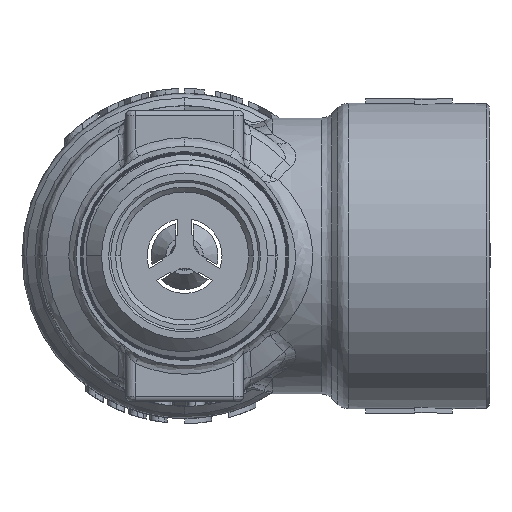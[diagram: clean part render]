
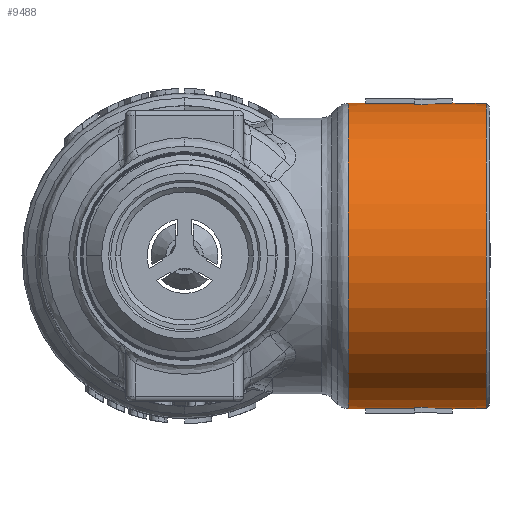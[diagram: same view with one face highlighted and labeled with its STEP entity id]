
A CAD part, front view. The second image highlights one B-rep face of the part: STEP entity #9488.
In plain terms, the highlighted cylindrical face has radius 15.5 mm (diameter 31 mm), a partial arc.
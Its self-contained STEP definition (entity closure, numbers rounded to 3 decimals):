
#667 = CARTESIAN_POINT ( 'NONE',  ( 0., 0., -15.5 ) ) ;
#1328 = ORIENTED_EDGE ( 'NONE', *, *, #25546, .T. ) ;
#1760 = LINE ( 'NONE', #14487, #35220 ) ;
#2380 = VERTEX_POINT ( 'NONE', #29763 ) ;
#2708 = CARTESIAN_POINT ( 'NONE',  ( 24.641, -1.471, -15.448 ) ) ;
#3813 = ORIENTED_EDGE ( 'NONE', *, *, #32991, .T. ) ;
#5413 = CARTESIAN_POINT ( 'NONE',  ( 23.378, 0., 0. ) ) ;
#6846 = CARTESIAN_POINT ( 'NONE',  ( 18.389, 0., -15.5 ) ) ;
#7269 = CARTESIAN_POINT ( 'NONE',  ( 27.189, 0., -15.5 ) ) ;
#7972 = AXIS2_PLACEMENT_3D ( 'NONE', #53839, #32667, #49633 ) ;
#9321 = ORIENTED_EDGE ( 'NONE', *, *, #40566, .F. ) ;
#9408 = VERTEX_POINT ( 'NONE', #44548 ) ;
#9488 = ADVANCED_FACE ( 'NONE', ( #27856 ), #44823, .T. ) ;
#10065 = EDGE_CURVE ( 'NONE', #10249, #9408, #48957, .T. ) ;
#10249 = VERTEX_POINT ( 'NONE', #38076 ) ;
#10483 = EDGE_CURVE ( 'NONE', #30074, #37553, #48510, .T. ) ;
#10514 = CARTESIAN_POINT ( 'NONE',  ( 18.389, -1.1, -15.461 ) ) ;
#11431 = CARTESIAN_POINT ( 'NONE',  ( 27.189, 0., 15.5 ) ) ;
#11548 = CARTESIAN_POINT ( 'NONE',  ( 0., 0., 15.5 ) ) ;
#11569 = CARTESIAN_POINT ( 'NONE',  ( 25.913, -0.736, -15.5 ) ) ;
#11589 = CARTESIAN_POINT ( 'NONE',  ( 27.189, 0., 15.5 ) ) ;
#12451 = VERTEX_POINT ( 'NONE', #21779 ) ;
#13399 = CIRCLE ( 'NONE', #20490, 15.5 ) ;
#13904 = DIRECTION ( 'NONE',  ( 0., 0., 1. ) ) ;
#13972 = DIRECTION ( 'NONE',  ( -1., 0., 0. ) ) ;
#14487 = CARTESIAN_POINT ( 'NONE',  ( 0., 0., 15.5 ) ) ;
#14550 = ORIENTED_EDGE ( 'NONE', *, *, #26457, .T. ) ;
#14563 = ORIENTED_EDGE ( 'NONE', *, *, #41731, .T. ) ;
#16108 = EDGE_CURVE ( 'NONE', #46033, #22547, #50529, .T. ) ;
#16189 = DIRECTION ( 'NONE',  ( 0., 0., 1. ) ) ;
#16622 = VERTEX_POINT ( 'NONE', #25057 ) ;
#16944 = ORIENTED_EDGE ( 'NONE', *, *, #43669, .T. ) ;
#17364 = VERTEX_POINT ( 'NONE', #39268 ) ;
#17427 = AXIS2_PLACEMENT_3D ( 'NONE', #27574, #52850, #47612 ) ;
#18550 = CIRCLE ( 'NONE', #7972, 15.5 ) ;
#19000 = ORIENTED_EDGE ( 'NONE', *, *, #31926, .F. ) ;
#19032 = VERTEX_POINT ( 'NONE', #7269 ) ;
#20448 = CARTESIAN_POINT ( 'NONE',  ( 27.189, 0., -15.5 ) ) ;
#20490 = AXIS2_PLACEMENT_3D ( 'NONE', #37316, #36760, #16189 ) ;
#21114 = DIRECTION ( 'NONE',  ( -1., 0., 0. ) ) ;
#21478 = CARTESIAN_POINT ( 'NONE',  ( 16.621, 0., 15.5 ) ) ;
#21779 = CARTESIAN_POINT ( 'NONE',  ( 23.378, -1.1, -15.461 ) ) ;
#22093 = EDGE_CURVE ( 'NONE', #17364, #46033, #48769, .T. ) ;
#22318 = DIRECTION ( 'NONE',  ( -1., 0., 0. ) ) ;
#22547 = VERTEX_POINT ( 'NONE', #43926 ) ;
#22871 = DIRECTION ( 'NONE',  ( -1., 0., 0. ) ) ;
#23539 = ORIENTED_EDGE ( 'NONE', *, *, #16108, .T. ) ;
#23621 = CIRCLE ( 'NONE', #17427, 15.5 ) ;
#25057 = CARTESIAN_POINT ( 'NONE',  ( 23.378, -2.2, -15.343 ) ) ;
#25175 = VECTOR ( 'NONE', #40708, 1000. ) ;
#25546 = EDGE_CURVE ( 'NONE', #37292, #12451, #30878, .T. ) ;
#26223 = VECTOR ( 'NONE', #22871, 1000. ) ;
#26457 = EDGE_CURVE ( 'NONE', #26645, #37553, #1760, .T. ) ;
#26543 = CIRCLE ( 'NONE', #47845, 15.5 ) ;
#26616 = ORIENTED_EDGE ( 'NONE', *, *, #22093, .T. ) ;
#26645 = VERTEX_POINT ( 'NONE', #40596 ) ;
#27301 = VECTOR ( 'NONE', #13972, 1000. ) ;
#27574 = CARTESIAN_POINT ( 'NONE',  ( 18.389, 0., 0. ) ) ;
#27856 = FACE_OUTER_BOUND ( 'NONE', #31891, .T. ) ;
#28552 = EDGE_CURVE ( 'NONE', #2380, #17364, #26543, .T. ) ;
#28843 = VERTEX_POINT ( 'NONE', #6846 ) ;
#29763 = CARTESIAN_POINT ( 'NONE',  ( 30.619, 0., -15.5 ) ) ;
#30074 = VERTEX_POINT ( 'NONE', #32556 ) ;
#30769 = AXIS2_PLACEMENT_3D ( 'NONE', #34657, #21114, #33831 ) ;
#30878 = LINE ( 'NONE', #48114, #45845 ) ;
#31084 = VECTOR ( 'NONE', #33250, 1000. ) ;
#31154 = DIRECTION ( 'NONE',  ( 1., 0., 0. ) ) ;
#31891 = EDGE_LOOP ( 'NONE', ( #19000, #50441, #26616, #23539, #16944, #34223, #46402, #14550, #45330, #9321, #14563, #1328, #34947, #3813 ) ) ;
#31926 = EDGE_CURVE ( 'NONE', #2380, #19032, #45520, .T. ) ;
#32106 = CARTESIAN_POINT ( 'NONE',  ( 25.913, -0.736, 15.5 ) ) ;
#32556 = CARTESIAN_POINT ( 'NONE',  ( 16.621, 0., -15.5 ) ) ;
#32667 = DIRECTION ( 'NONE',  ( -1., 0., 0. ) ) ;
#32836 = CARTESIAN_POINT ( 'NONE',  ( 0., 0., 0. ) ) ;
#32991 = EDGE_CURVE ( 'NONE', #16622, #19032, #51764, .T. ) ;
#33250 = DIRECTION ( 'NONE',  ( -1., 0., 0. ) ) ;
#33831 = DIRECTION ( 'NONE',  ( 0., 0., -1. ) ) ;
#34132 = AXIS2_PLACEMENT_3D ( 'NONE', #5413, #22318, #35050 ) ;
#34145 = DIRECTION ( 'NONE',  ( -1., 0., 0. ) ) ;
#34223 = ORIENTED_EDGE ( 'NONE', *, *, #10065, .T. ) ;
#34657 = CARTESIAN_POINT ( 'NONE',  ( 16.621, 0., 0. ) ) ;
#34947 = ORIENTED_EDGE ( 'NONE', *, *, #39756, .T. ) ;
#35009 = AXIS2_PLACEMENT_3D ( 'NONE', #32836, #53723, #49514 ) ;
#35050 = DIRECTION ( 'NONE',  ( 0., 0., 1. ) ) ;
#35220 = VECTOR ( 'NONE', #47313, 1000. ) ;
#36760 = DIRECTION ( 'NONE',  ( -1., 0., 0. ) ) ;
#37292 = VERTEX_POINT ( 'NONE', #10514 ) ;
#37316 = CARTESIAN_POINT ( 'NONE',  ( 23.378, 0., 0. ) ) ;
#37553 = VERTEX_POINT ( 'NONE', #21478 ) ;
#38076 = CARTESIAN_POINT ( 'NONE',  ( 23.378, -1.1, 15.461 ) ) ;
#39268 = CARTESIAN_POINT ( 'NONE',  ( 30.619, 0., 15.5 ) ) ;
#39655 = EDGE_CURVE ( 'NONE', #9408, #26645, #23621, .T. ) ;
#39756 = EDGE_CURVE ( 'NONE', #12451, #16622, #43059, .T. ) ;
#40566 = EDGE_CURVE ( 'NONE', #28843, #30074, #43141, .T. ) ;
#40596 = CARTESIAN_POINT ( 'NONE',  ( 18.389, 0., 15.5 ) ) ;
#40708 = DIRECTION ( 'NONE',  ( -1., 0., 0. ) ) ;
#41005 = CARTESIAN_POINT ( 'NONE',  ( 24.641, -1.471, 15.448 ) ) ;
#41040 = CARTESIAN_POINT ( 'NONE',  ( 0., 0., -15.5 ) ) ;
#41731 = EDGE_CURVE ( 'NONE', #28843, #37292, #18550, .T. ) ;
#43059 = CIRCLE ( 'NONE', #34132, 15.5 ) ;
#43141 = LINE ( 'NONE', #667, #27301 ) ;
#43669 = EDGE_CURVE ( 'NONE', #22547, #10249, #13399, .T. ) ;
#43926 = CARTESIAN_POINT ( 'NONE',  ( 23.378, -2.2, 15.343 ) ) ;
#44260 = CARTESIAN_POINT ( 'NONE',  ( 0., -1.1, 15.461 ) ) ;
#44548 = CARTESIAN_POINT ( 'NONE',  ( 18.389, -1.1, 15.461 ) ) ;
#44823 = CYLINDRICAL_SURFACE ( 'NONE', #35009, 15.5 ) ;
#44909 = CARTESIAN_POINT ( 'NONE',  ( 23.378, -2.2, -15.343 ) ) ;
#45330 = ORIENTED_EDGE ( 'NONE', *, *, #10483, .F. ) ;
#45520 = LINE ( 'NONE', #41040, #31084 ) ;
#45845 = VECTOR ( 'NONE', #31154, 1000. ) ;
#46033 = VERTEX_POINT ( 'NONE', #11431 ) ;
#46402 = ORIENTED_EDGE ( 'NONE', *, *, #39655, .T. ) ;
#47313 = DIRECTION ( 'NONE',  ( -1., 0., 0. ) ) ;
#47612 = DIRECTION ( 'NONE',  ( 0., 0., 1. ) ) ;
#47845 = AXIS2_PLACEMENT_3D ( 'NONE', #51399, #34145, #13904 ) ;
#48114 = CARTESIAN_POINT ( 'NONE',  ( 0., -1.1, -15.461 ) ) ;
#48510 = CIRCLE ( 'NONE', #30769, 15.5 ) ;
#48769 = LINE ( 'NONE', #11548, #25175 ) ;
#48957 = LINE ( 'NONE', #44260, #26223 ) ;
#49069 = CARTESIAN_POINT ( 'NONE',  ( 23.378, -2.2, 15.343 ) ) ;
#49514 = DIRECTION ( 'NONE',  ( 0., 0., 1. ) ) ;
#49633 = DIRECTION ( 'NONE',  ( 0., 0., 1. ) ) ;
#50441 = ORIENTED_EDGE ( 'NONE', *, *, #28552, .T. ) ;
#50529 =( BOUNDED_CURVE ( )  B_SPLINE_CURVE ( 3, ( #11589, #32106, #41005, #49069 ),
 .UNSPECIFIED., .F., .F. ) 
 B_SPLINE_CURVE_WITH_KNOTS ( ( 4, 4 ),
 ( 4.712, 4.855 ),
 .UNSPECIFIED. ) 
 CURVE ( )  GEOMETRIC_REPRESENTATION_ITEM ( )  RATIONAL_B_SPLINE_CURVE ( ( 1., 0.998, 0.998, 1. ) ) 
 REPRESENTATION_ITEM ( '' )  );
#51399 = CARTESIAN_POINT ( 'NONE',  ( 30.619, 0., 0. ) ) ;
#51764 =( BOUNDED_CURVE ( )  B_SPLINE_CURVE ( 3, ( #44909, #2708, #11569, #20448 ),
 .UNSPECIFIED., .F., .T. ) 
 B_SPLINE_CURVE_WITH_KNOTS ( ( 4, 4 ),
 ( 1.428, 1.571 ),
 .UNSPECIFIED. ) 
 CURVE ( )  GEOMETRIC_REPRESENTATION_ITEM ( )  RATIONAL_B_SPLINE_CURVE ( ( 1., 0.998, 0.998, 1. ) ) 
 REPRESENTATION_ITEM ( '' )  );
#52850 = DIRECTION ( 'NONE',  ( -1., 0., 0. ) ) ;
#53723 = DIRECTION ( 'NONE',  ( -1., 0., 0. ) ) ;
#53839 = CARTESIAN_POINT ( 'NONE',  ( 18.389, 0., 0. ) ) ;
